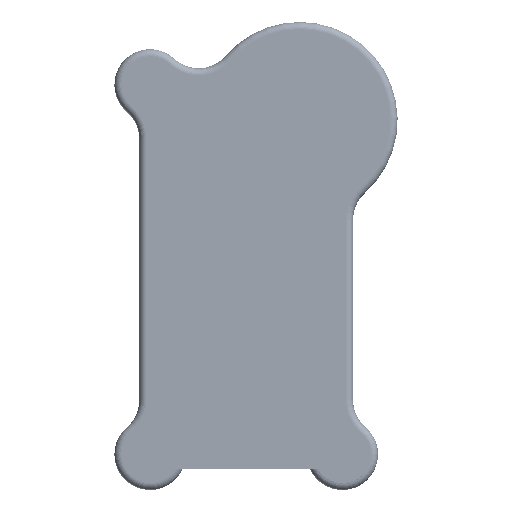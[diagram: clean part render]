
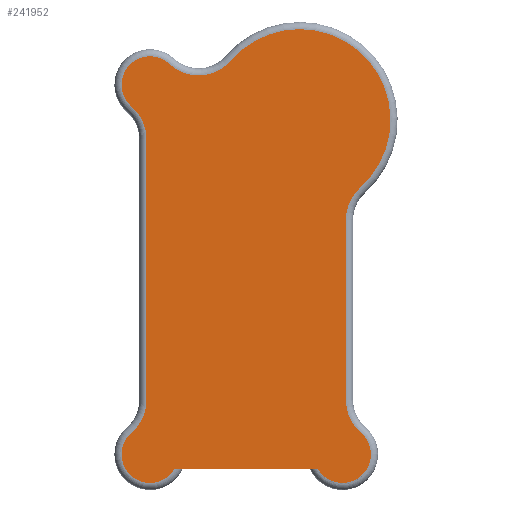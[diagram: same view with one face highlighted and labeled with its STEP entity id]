
A CAD part, front view. The second image highlights one B-rep face of the part: STEP entity #241952.
In plain terms, the highlighted planar face has unit normal (0, -1, 0) as drawn and (0, 0, 1) by its records, which use the part's own axes.
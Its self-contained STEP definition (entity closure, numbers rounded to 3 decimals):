
#20883=FACE_OUTER_BOUND('',#34635,.T.);
#34635=EDGE_LOOP('',(#177897,#177898,#177899,#177900,#177901,#177902,#177903,
#177904,#177905,#177906,#177907,#177908));
#45222=CIRCLE('',#256220,8.);
#45224=CIRCLE('',#256223,12.);
#45227=CIRCLE('',#256228,12.);
#45229=CIRCLE('',#256231,8.);
#45231=CIRCLE('',#256234,12.);
#45233=CIRCLE('',#256237,25.5);
#45235=CIRCLE('',#256240,12.);
#45238=CIRCLE('',#256245,12.);
#45240=CIRCLE('',#256248,8.);
#58420=LINE('',#365853,#84098);
#58421=LINE('',#365877,#84099);
#58422=LINE('',#365898,#84100);
#84098=VECTOR('',#286501,10.);
#84099=VECTOR('',#286536,10.);
#84100=VECTOR('',#286551,10.);
#107914=VERTEX_POINT('',#365832);
#107915=VERTEX_POINT('',#365834);
#107916=VERTEX_POINT('',#365847);
#107917=VERTEX_POINT('',#365851);
#107918=VERTEX_POINT('',#365855);
#107919=VERTEX_POINT('',#365859);
#107920=VERTEX_POINT('',#365863);
#107921=VERTEX_POINT('',#365867);
#107922=VERTEX_POINT('',#365871);
#107923=VERTEX_POINT('',#365875);
#107924=VERTEX_POINT('',#365879);
#107925=VERTEX_POINT('',#365883);
#133579=EDGE_CURVE('',#107915,#107914,#45222,.T.);
#133581=EDGE_CURVE('',#107914,#107916,#45224,.T.);
#133583=EDGE_CURVE('',#107916,#107917,#58420,.T.);
#133585=EDGE_CURVE('',#107917,#107918,#45227,.T.);
#133587=EDGE_CURVE('',#107918,#107919,#45229,.T.);
#133589=EDGE_CURVE('',#107919,#107920,#45231,.T.);
#133591=EDGE_CURVE('',#107920,#107921,#45233,.T.);
#133593=EDGE_CURVE('',#107921,#107922,#45235,.T.);
#133595=EDGE_CURVE('',#107922,#107923,#58421,.T.);
#133597=EDGE_CURVE('',#107923,#107924,#45238,.T.);
#133600=EDGE_CURVE('',#107924,#107925,#45240,.T.);
#133601=EDGE_CURVE('',#107915,#107925,#58422,.T.);
#177897=ORIENTED_EDGE('',*,*,#133601,.T.);
#177898=ORIENTED_EDGE('',*,*,#133600,.F.);
#177899=ORIENTED_EDGE('',*,*,#133597,.F.);
#177900=ORIENTED_EDGE('',*,*,#133595,.F.);
#177901=ORIENTED_EDGE('',*,*,#133593,.F.);
#177902=ORIENTED_EDGE('',*,*,#133591,.F.);
#177903=ORIENTED_EDGE('',*,*,#133589,.F.);
#177904=ORIENTED_EDGE('',*,*,#133587,.F.);
#177905=ORIENTED_EDGE('',*,*,#133585,.F.);
#177906=ORIENTED_EDGE('',*,*,#133583,.F.);
#177907=ORIENTED_EDGE('',*,*,#133581,.F.);
#177908=ORIENTED_EDGE('',*,*,#133579,.F.);
#233206=PLANE('',#256249);
#241952=ADVANCED_FACE('',(#20883),#233206,.T.);
#256220=AXIS2_PLACEMENT_3D('',#365845,#286489,#286490);
#256223=AXIS2_PLACEMENT_3D('',#365849,#286495,#286496);
#256228=AXIS2_PLACEMENT_3D('',#365857,#286506,#286507);
#256231=AXIS2_PLACEMENT_3D('',#365861,#286512,#286513);
#256234=AXIS2_PLACEMENT_3D('',#365865,#286518,#286519);
#256237=AXIS2_PLACEMENT_3D('',#365869,#286524,#286525);
#256240=AXIS2_PLACEMENT_3D('',#365873,#286530,#286531);
#256245=AXIS2_PLACEMENT_3D('',#365881,#286541,#286542);
#256248=AXIS2_PLACEMENT_3D('',#365896,#286547,#286548);
#256249=AXIS2_PLACEMENT_3D('',#365897,#286549,#286550);
#286489=DIRECTION('center_axis',(0.,0.,-1.));
#286490=DIRECTION('ref_axis',(-0.601,-0.799,0.));
#286495=DIRECTION('center_axis',(0.,0.,1.));
#286496=DIRECTION('ref_axis',(0.908,-0.418,0.));
#286501=DIRECTION('',(0.,1.,0.));
#286506=DIRECTION('center_axis',(0.,0.,1.));
#286507=DIRECTION('ref_axis',(0.908,0.418,0.));
#286512=DIRECTION('center_axis',(0.,0.,-1.));
#286513=DIRECTION('ref_axis',(-0.746,0.666,0.));
#286518=DIRECTION('center_axis',(0.,0.,1.));
#286519=DIRECTION('ref_axis',(0.055,-0.999,0.));
#286524=DIRECTION('center_axis',(0.,0.,-1.));
#286525=DIRECTION('ref_axis',(0.701,0.713,0.));
#286530=DIRECTION('center_axis',(0.,0.,1.));
#286531=DIRECTION('ref_axis',(-0.913,0.408,0.));
#286536=DIRECTION('',(0.,-1.,0.));
#286541=DIRECTION('center_axis',(0.,0.,1.));
#286542=DIRECTION('ref_axis',(-0.908,-0.418,0.));
#286547=DIRECTION('center_axis',(0.,0.,-1.));
#286548=DIRECTION('ref_axis',(0.601,-0.799,0.));
#286549=DIRECTION('center_axis',(0.,0.,1.));
#286550=DIRECTION('ref_axis',(1.,0.,0.));
#286551=DIRECTION('',(1.,0.,0.));
#365832=CARTESIAN_POINT('',(-14.7,-97.283,2.));
#365834=CARTESIAN_POINT('',(-2.653,-107.5,2.));
#365845=CARTESIAN_POINT('Origin',(-9.5,-103.362,2.));
#365847=CARTESIAN_POINT('',(-10.5,-88.164,2.));
#365849=CARTESIAN_POINT('Origin',(-22.5,-88.164,2.));
#365851=CARTESIAN_POINT('',(-10.5,-14.836,2.));
#365853=CARTESIAN_POINT('',(-10.5,-23.5,2.));
#365855=CARTESIAN_POINT('',(-14.7,-5.717,2.));
#365857=CARTESIAN_POINT('Origin',(-22.5,-14.836,2.));
#365859=CARTESIAN_POINT('',(-4.053,6.221,2.));
#365861=CARTESIAN_POINT('Origin',(-9.5,0.362,2.));
#365863=CARTESIAN_POINT('',(13.2,7.167,2.));
#365865=CARTESIAN_POINT('Origin',(4.118,15.01,2.));
#365867=CARTESIAN_POINT('',(49.5,-28.507,2.));
#365869=CARTESIAN_POINT('Origin',(32.5,-9.5,2.));
#365871=CARTESIAN_POINT('',(45.5,-37.451,2.));
#365873=CARTESIAN_POINT('Origin',(57.5,-37.451,2.));
#365875=CARTESIAN_POINT('',(45.5,-88.164,2.));
#365877=CARTESIAN_POINT('',(45.5,-79.5,2.));
#365879=CARTESIAN_POINT('',(49.7,-97.283,2.));
#365881=CARTESIAN_POINT('Origin',(57.5,-88.164,2.));
#365883=CARTESIAN_POINT('',(37.653,-107.5,2.));
#365896=CARTESIAN_POINT('Origin',(44.5,-103.362,2.));
#365897=CARTESIAN_POINT('Origin',(17.5,-51.5,2.));
#365898=CARTESIAN_POINT('',(-12.5,-107.5,2.));
